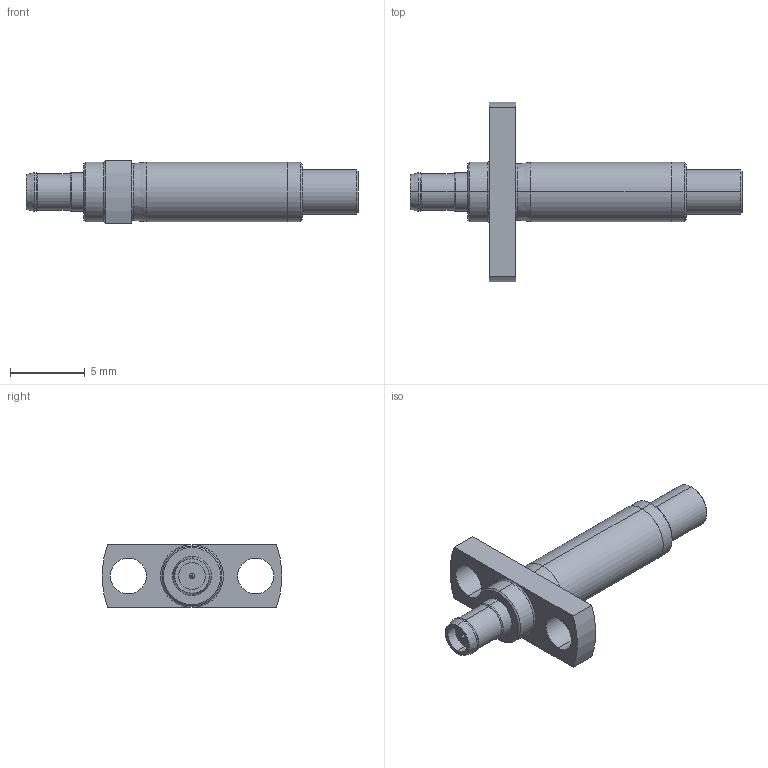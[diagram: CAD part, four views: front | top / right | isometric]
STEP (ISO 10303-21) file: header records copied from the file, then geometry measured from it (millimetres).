
FILE_DESCRIPTION (( 'STEP AP203' ), '1' );
FILE_NAME ('MHF4 RECEPTACLE HIGH CYCLE N45 C ADAPTER.STEP', '2020-04-07T07:59:36', ( '' ), ( '' ), 'SwSTEP 2.0', 'SolidWorks 2017', '' );
FILE_SCHEMA (( 'CONFIG_CONTROL_DESIGN' ));
Length unit declared in the file: millimetre
Products named in the file (1): MHF4 RECEPTACLE HIGH CYCLE N45 C ADAPTER
Bounding box: 22.15 x 11.97 x 4.2 mm (x, y, z)
Volume: 269.7 mm3; surface area: 391.4 mm2
Topology: 1 solids, 1 shells, 69 faces, 142 edges, 82 vertices
Faces by surface type: cylinder 26, cone 20, plane 13, torus 10
Entity records: 1905 total; most frequent: DIRECTION 370, CARTESIAN_POINT 294, ORIENTED_EDGE 284, AXIS2_PLACEMENT_3D 158, EDGE_CURVE 142, CIRCLE 88, VERTEX_POINT 82, EDGE_LOOP 80
